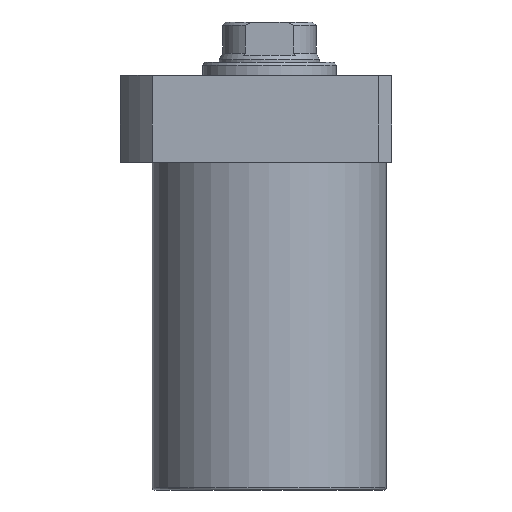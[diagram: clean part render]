
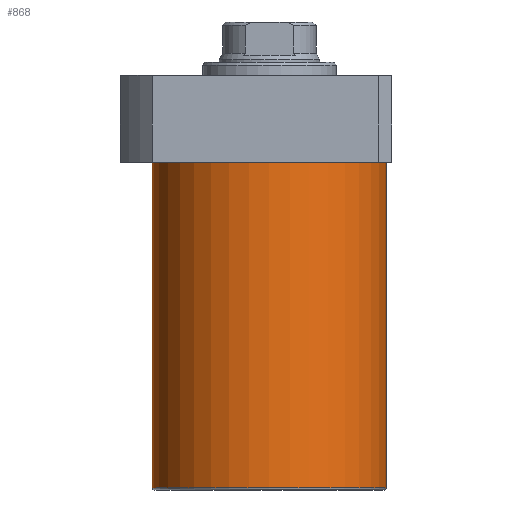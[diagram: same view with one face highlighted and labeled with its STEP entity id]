
A CAD part, front view. The second image highlights one B-rep face of the part: STEP entity #868.
In plain terms, the highlighted cylindrical face has radius 52.5 mm (diameter 105 mm), a partial arc.
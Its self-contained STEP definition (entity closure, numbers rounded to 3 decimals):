
#11 = VERTEX_POINT ( 'NONE', #1388 ) ;
#28 = CIRCLE ( 'NONE', #1335, 52.5 ) ;
#96 = EDGE_LOOP ( 'NONE', ( #1374, #1601, #641, #1522 ) ) ;
#140 = VERTEX_POINT ( 'NONE', #338 ) ;
#142 = DIRECTION ( 'NONE',  ( 1., 0., 0. ) ) ;
#252 = CARTESIAN_POINT ( 'NONE',  ( -52.5, 0., -19.5 ) ) ;
#336 = VERTEX_POINT ( 'NONE', #252 ) ;
#338 = CARTESIAN_POINT ( 'NONE',  ( 52.5, 0., -165.5 ) ) ;
#384 = CARTESIAN_POINT ( 'NONE',  ( -52.5, 0., -166.5 ) ) ;
#533 = DIRECTION ( 'NONE',  ( 0., 0., 1. ) ) ;
#550 = VERTEX_POINT ( 'NONE', #1368 ) ;
#612 = DIRECTION ( 'NONE',  ( 0., 0., 1. ) ) ;
#641 = ORIENTED_EDGE ( 'NONE', *, *, #1693, .T. ) ;
#727 = EDGE_CURVE ( 'NONE', #11, #336, #1360, .T. ) ;
#786 = DIRECTION ( 'NONE',  ( 0., 0., 1. ) ) ;
#850 = VECTOR ( 'NONE', #1284, 1000. ) ;
#868 = ADVANCED_FACE ( 'NONE', ( #950 ), #1909, .T. ) ;
#950 = FACE_OUTER_BOUND ( 'NONE', #96, .T. ) ;
#1035 = AXIS2_PLACEMENT_3D ( 'NONE', #1381, #612, #1241 ) ;
#1073 = DIRECTION ( 'NONE',  ( -1., 0., 0. ) ) ;
#1115 = CIRCLE ( 'NONE', #1879, 52.5 ) ;
#1207 = CARTESIAN_POINT ( 'NONE',  ( 0., 0., -19.5 ) ) ;
#1241 = DIRECTION ( 'NONE',  ( 1., 0., 0. ) ) ;
#1259 = CARTESIAN_POINT ( 'NONE',  ( 52.5, 0., -166.5 ) ) ;
#1284 = DIRECTION ( 'NONE',  ( 0., 0., 1. ) ) ;
#1335 = AXIS2_PLACEMENT_3D ( 'NONE', #1832, #786, #1073 ) ;
#1360 = LINE ( 'NONE', #384, #850 ) ;
#1368 = CARTESIAN_POINT ( 'NONE',  ( 52.5, 0., -19.5 ) ) ;
#1374 = ORIENTED_EDGE ( 'NONE', *, *, #727, .F. ) ;
#1381 = CARTESIAN_POINT ( 'NONE',  ( 0., 0., -166.5 ) ) ;
#1388 = CARTESIAN_POINT ( 'NONE',  ( -52.5, 0., -165.5 ) ) ;
#1391 = DIRECTION ( 'NONE',  ( 0., 0., -1. ) ) ;
#1400 = VECTOR ( 'NONE', #533, 1000. ) ;
#1483 = EDGE_CURVE ( 'NONE', #11, #140, #28, .T. ) ;
#1522 = ORIENTED_EDGE ( 'NONE', *, *, #1957, .T. ) ;
#1601 = ORIENTED_EDGE ( 'NONE', *, *, #1483, .T. ) ;
#1693 = EDGE_CURVE ( 'NONE', #140, #550, #1824, .T. ) ;
#1824 = LINE ( 'NONE', #1259, #1400 ) ;
#1832 = CARTESIAN_POINT ( 'NONE',  ( 0., 0., -165.5 ) ) ;
#1879 = AXIS2_PLACEMENT_3D ( 'NONE', #1207, #1391, #142 ) ;
#1909 = CYLINDRICAL_SURFACE ( 'NONE', #1035, 52.5 ) ;
#1957 = EDGE_CURVE ( 'NONE', #550, #336, #1115, .T. ) ;
